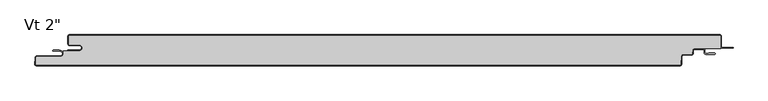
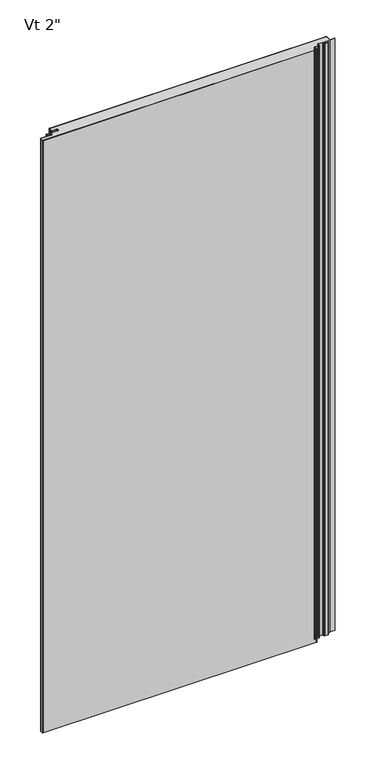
"""IFC4 building model written with IfcOpenShell, lengths in millimetres: plate geometry."""

from ifc_helpers import new_model, si_unit, point, frame, frame_2d, origin, origin_with_axes, place, context, project, spatial, polyline, circle_curve, ellipse_curve, trimmed, segment, composite_curve, outline, extrude, source, transform, mapped, element, save
from ifc_brep_helpers import plane_surface, cylinder_surface, revolved_surface, extruded_surface, advanced_brep


def plate_f2bdf8cb(model_context):
    return source(origin(), model_context, "Body", "SolidModel", [
        extrude(outline(composite_curve([segment(trimmed(circle_curve(frame_2d((488.3683456, -25.4)), 2.5875), [point((488.3683456, -22.8125))], [point((485.7843916, -25.2645807))], True, "CARTESIAN"), True, "CONTINUOUS"), segment(polyline([(485.7843916, -25.2645807), (485.4823154, -31.028539)]), True, "CONTINUOUS"), segment(trimmed(circle_curve(frame_2d((484.1029583, -30.95625)), 1.38125), [point((485.4823154, -31.028539))], [point((484.1029583, -32.3375))], False, "CARTESIAN"), True, "CONTINUOUS"), segment(polyline([(484.1029583, -32.3375), (469.9323845, -32.3375)]), True, "CONTINUOUS"), segment(trimmed(circle_curve(frame_2d((469.9323845, -34.925)), 2.5875), [point((469.9323845, -32.3375))], [point((467.3484306, -34.7895807))], True, "CARTESIAN"), True, "CONTINUOUS"), segment(polyline([(467.3484306, -34.7895807), (466.6303676, -48.491039)]), True, "CONTINUOUS"), segment(trimmed(circle_curve(frame_2d((465.2510105, -48.41875)), 1.38125), [point((466.6303676, -48.491039))], [point((465.2510105, -49.8))], False, "CARTESIAN"), True, "CONTINUOUS"), segment(polyline([(465.2510105, -49.8), (-584.0656862, -49.8)]), True, "CONTINUOUS"), segment(trimmed(circle_curve(frame_2d((-584.0656862, -48.41875)), 1.38125), [point((-584.0656862, -49.8))], [point((-585.4450433, -48.346461))], False, "CARTESIAN"), True, "CONTINUOUS"), segment(polyline([(-585.4450433, -48.346461), (-584.8626618, -37.233961)]), True, "CONTINUOUS"), segment(trimmed(circle_curve(frame_2d((-583.4833048, -37.30625)), 1.38125), [point((-584.8626618, -37.233961))], [point((-583.4833048, -35.925))], False, "CARTESIAN"), True, "CONTINUOUS"), segment(polyline([(-583.4833048, -35.925), (-545.3000002, -35.925)]), True, "CONTINUOUS"), segment(trimmed(circle_curve(frame_2d((-545.3000002, -30.95625)), 4.96875), [point((-545.3000002, -35.925))], [point((-540.3312502, -30.95625))], True, "CARTESIAN"), True, "CONTINUOUS"), segment(polyline([(-540.3312502, -30.95625), (-540.3312502, -26.4), (-514.3437502, -26.4)]), True, "CONTINUOUS"), segment(trimmed(circle_curve(frame_2d((-514.3437502, -21.43125)), 4.96875), [point((-514.3437502, -26.4))], [point((-514.3437502, -16.4625))], True, "CARTESIAN"), True, "CONTINUOUS"), segment(polyline([(-514.3437502, -16.4625), (-530.2187502, -16.4625)]), True, "CONTINUOUS"), segment(trimmed(circle_curve(frame_2d((-530.2187502, -15.08125)), 1.38125), [point((-530.2187502, -16.4625))], [point((-531.6000002, -15.08125))], False, "CARTESIAN"), True, "CONTINUOUS"), segment(polyline([(-531.6000002, -15.08125), (-531.6000002, -2.38125)]), True, "CONTINUOUS"), segment(trimmed(circle_curve(frame_2d((-530.2187502, -2.38125)), 1.38125), [point((-531.6000002, -2.38125))], [point((-530.2187502, -1.0))], False, "CARTESIAN"), True, "CONTINUOUS"), segment(polyline([(-530.2187502, -1.0), (530.2312498, -1.0)]), True, "CONTINUOUS"), segment(trimmed(circle_curve(frame_2d((530.2312498, -2.38125)), 1.38125), [point((530.2312498, -1.0))], [point((531.6124998, -2.38125))], False, "CARTESIAN"), True, "CONTINUOUS"), segment(polyline([(531.6124998, -2.38125), (531.6124998, -22.8125), (488.3683456, -22.8125)]), True, "CONTINUOUS")], self_intersect=False)), origin_with_axes(), (0.0, 0.0, 1.0), 2400.0),
        extrude(outline(composite_curve([segment(polyline([(-532.6000002, -25.4), (-514.3437502, -25.4)]), True, "CONTINUOUS"), segment(trimmed(circle_curve(frame_2d((-514.3437502, -21.43125)), 3.96875), [point((-514.3437502, -25.4))], [point((-514.3437502, -17.4625))], True, "CARTESIAN"), True, "CONTINUOUS"), segment(polyline([(-514.3437502, -17.4625), (-530.2187502, -17.4625)]), True, "CONTINUOUS"), segment(trimmed(circle_curve(frame_2d((-530.2187502, -15.08125)), 2.38125), [point((-530.2187502, -17.4625))], [point((-532.6000002, -15.08125))], False, "CARTESIAN"), True, "CONTINUOUS"), segment(polyline([(-532.6000002, -15.08125), (-532.6000002, -2.38125)]), True, "CONTINUOUS"), segment(trimmed(circle_curve(frame_2d((-530.2187502, -2.38125)), 2.38125), [point((-532.6000002, -2.38125))], [point((-530.2187502, 0.0))], False, "CARTESIAN"), True, "CONTINUOUS"), segment(polyline([(-530.2187502, 0.0), (530.2312498, 0.0)]), True, "CONTINUOUS"), segment(trimmed(circle_curve(frame_2d((530.2312498, -2.38125)), 2.38125), [point((530.2312498, 0.0))], [point((532.6124998, -2.38125))], False, "CARTESIAN"), True, "CONTINUOUS"), segment(polyline([(532.6124998, -2.38125), (532.6124998, -19.446875)]), True, "CONTINUOUS"), segment(trimmed(circle_curve(frame_2d((534.1999998, -19.446875)), 1.5875), [point((532.6124998, -19.446875))], [point((534.1999998, -21.034375))], True, "CARTESIAN"), True, "CONTINUOUS"), segment(polyline([(534.1999998, -21.034375), (551.6624998, -21.034375), (551.6624998, -22.034375), (534.1999998, -22.034375)]), True, "CONTINUOUS"), segment(trimmed(circle_curve(frame_2d((534.1999998, -19.446875)), 2.5875), [point((534.1999998, -22.034375))], [point((531.6124998, -19.446875))], False, "CARTESIAN"), True, "CONTINUOUS"), segment(polyline([(531.6124998, -19.446875), (531.6124998, -2.38125)]), True, "CONTINUOUS"), segment(trimmed(circle_curve(frame_2d((530.2312498, -2.38125)), 1.38125), [point((531.6124998, -2.38125))], [point((530.2312498, -1.0))], True, "CARTESIAN"), True, "CONTINUOUS"), segment(polyline([(530.2312498, -1.0), (-530.2187502, -1.0)]), True, "CONTINUOUS"), segment(trimmed(circle_curve(frame_2d((-530.2187502, -2.38125)), 1.38125), [point((-530.2187502, -1.0))], [point((-531.6000002, -2.38125))], True, "CARTESIAN"), True, "CONTINUOUS"), segment(polyline([(-531.6000002, -2.38125), (-531.6000002, -15.08125)]), True, "CONTINUOUS"), segment(trimmed(circle_curve(frame_2d((-530.2187502, -15.08125)), 1.38125), [point((-531.6000002, -15.08125))], [point((-530.2187502, -16.4625))], True, "CARTESIAN"), True, "CONTINUOUS"), segment(polyline([(-530.2187502, -16.4625), (-514.3437502, -16.4625)]), True, "CONTINUOUS"), segment(trimmed(circle_curve(frame_2d((-514.3437502, -21.43125)), 4.96875), [point((-514.3437502, -16.4625))], [point((-514.3437502, -26.4))], False, "CARTESIAN"), True, "CONTINUOUS"), segment(polyline([(-514.3437502, -26.4), (-532.6000002, -26.4), (-532.6000002, -25.4)]), True, "CONTINUOUS")], self_intersect=False)), origin_with_axes(), (0.0, 0.0, 1.0), 2400.0),
        advanced_brep(
        [(-556.6252051, -25.4, 2400.0), (-556.6252051, -26.9875, 2400.0), (-545.3142676, -26.9875, 2400.0), (-545.3142676, -34.925, 2400.0), (-583.4975722, -34.925, 2400.0), (-585.8755588, -37.181625, 2400.0), (-586.4579402, -48.294125, 2400.0), (-584.0799537, -50.8, 2400.0), (465.2510105, -50.8, 2400.0), (467.6289971, -48.543375, 2400.0), (468.3470601, -34.8419167, 2400.0), (469.9323845, -33.3375, 2400.0), (484.0886909, -33.3375, 2400.0), (486.4666775, -31.080875, 2400.0), (486.7687537, -25.3169167, 2400.0), (488.3540781, -23.8125, 2400.0), (503.2294824, -23.8125, 2400.0), (504.8169824, -25.4, 2400.0), (504.8169824, -29.5671875, 2400.0), (507.1982324, -31.9484375, 2400.0), (521.689853, -31.9484375, 2400.0), (521.689853, -30.1546875, 2400.0), (511.9607324, -30.1546875, 2400.0), (511.9607324, -30.9484375, 2400.0), (507.1982324, -30.9484375, 2400.0), (505.8169824, -29.5671875, 2400.0), (505.8169824, -25.4, 2400.0), (503.2294824, -22.8125, 2400.0), (488.3540781, -22.8125, 2400.0), (485.7701242, -25.2645807, 2400.0), (485.4680479, -31.028539, 2400.0), (484.0886909, -32.3375, 2400.0), (469.9323845, -32.3375, 2400.0), (467.3484306, -34.7895807, 2400.0), (466.6303676, -48.491039, 2400.0), (465.2510105, -49.8, 2400.0), (-584.0799537, -49.8, 2400.0), (-585.4593107, -48.346461, 2400.0), (-584.8769293, -37.233961, 2400.0), (-583.4975722, -35.925, 2400.0), (-545.3142676, -35.925, 2400.0), (-545.3142676, -25.9875, 2400.0), (-546.9017676, -26.19375, 2400.0), (-546.9017676, -25.4, 2400.0), (-556.6252051, -25.4, 0.0), (-546.9017676, -25.4, 0.0), (-546.9017676, -26.19375, 0.0), (-545.3142676, -25.9875, 0.0), (-545.3142676, -35.925, 0.0), (-583.4975722, -35.925, 0.0), (-584.8769293, -37.233961, 0.0), (-585.4593107, -48.346461, 0.0), (-584.0799537, -49.8, 0.0), (465.2510105, -49.8, 0.0), (466.6303676, -48.491039, 0.0), (467.3484306, -34.7895807, 0.0), (469.9323845, -32.3375, 0.0), (484.0886909, -32.3375, 0.0), (485.4680479, -31.028539, 0.0), (485.7701242, -25.2645807, 0.0), (488.3540781, -22.8125, 0.0), (503.2294824, -22.8125, 0.0), (505.8169824, -25.4, 0.0), (505.8169824, -29.5671875, 0.0), (507.1982324, -30.9484375, 0.0), (511.9607324, -30.9484375, 0.0), (511.9607324, -30.1546875, 0.0), (521.689853, -30.1546875, 0.0), (521.689853, -31.9484375, 0.0), (507.1982324, -31.9484375, 0.0), (504.8169824, -29.5671875, 0.0), (504.8169824, -25.4, 0.0), (503.2294824, -23.8125, 0.0), (488.3540781, -23.8125, 0.0), (486.7687537, -25.3169167, 0.0), (486.4666775, -31.080875, 0.0), (484.0886909, -33.3375, 0.0), (469.9323845, -33.3375, 0.0), (468.3470601, -34.8419167, 0.0), (467.6289971, -48.543375, 0.0), (465.2510105, -50.8, 0.0), (-584.0799537, -50.8, 0.0), (-586.4579402, -48.294125, 0.0), (-585.8755588, -37.181625, 0.0), (-583.4975722, -34.925, 0.0), (-545.3142676, -34.925, 0.0), (-545.3142676, -26.9875, 0.0), (-556.6252051, -26.9875, 0.0)],
        [
            (0, 1, circle_curve(frame((-556.6252051, -26.19375, 2400.0), z_axis=(0.0, 0.0, 1.0), x_axis=(-1.0, 0.0, 0.0)), 0.79375)),
            (1, 2),
            (2, 3, circle_curve(frame((-545.3142676, -30.95625, 2400.0), z_axis=(0.0, 0.0, -1.0), x_axis=(-1.0, 0.0, 0.0)), 3.96875)),
            (3, 4),
            (4, 5, circle_curve(frame((-583.4975722, -37.30625, 2400.0), z_axis=(0.0, 0.0, 1.0), x_axis=(-1.0, 0.0, 0.0)), 2.38125)),
            (5, 6),
            (6, 7, circle_curve(frame((-584.0799537, -48.41875, 2400.0), z_axis=(0.0, 0.0, 1.0), x_axis=(-1.0, 0.0, 0.0)), 2.38125)),
            (7, 8),
            (8, 9, circle_curve(frame((465.2510105, -48.41875, 2400.0), z_axis=(0.0, 0.0, 1.0), x_axis=(-1.0, 0.0, 0.0)), 2.38125)),
            (9, 10),
            (10, 11, circle_curve(frame((469.9323845, -34.925, 2400.0), z_axis=(0.0, 0.0, -1.0), x_axis=(-1.0, 0.0, 0.0)), 1.5875)),
            (11, 12),
            (12, 13, circle_curve(frame((484.0886909, -30.95625, 2400.0), z_axis=(0.0, 0.0, 1.0), x_axis=(-1.0, 0.0, 0.0)), 2.38125)),
            (13, 14),
            (14, 15, circle_curve(frame((488.3540781, -25.4, 2400.0), z_axis=(0.0, 0.0, -1.0), x_axis=(-1.0, 0.0, 0.0)), 1.5875)),
            (15, 16),
            (16, 17, circle_curve(frame((503.2294824, -25.4, 2400.0), z_axis=(0.0, 0.0, -1.0), x_axis=(-1.0, 0.0, 0.0)), 1.5875)),
            (17, 18),
            (18, 19, circle_curve(frame((507.1982324, -29.5671875, 2400.0), z_axis=(0.0, 0.0, 1.0), x_axis=(-1.0, 0.0, 0.0)), 2.38125)),
            (19, 20),
            (20, 21, ellipse_curve(frame((521.689853, -31.0515625, 2400.0), z_axis=(0.0, 0.0, 1.0), x_axis=(0.0, 1.0, 0.0)), 0.896875, 0.7852275)),
            (21, 22),
            (22, 23),
            (23, 24),
            (24, 25, circle_curve(frame((507.1982324, -29.5671875, 2400.0), z_axis=(0.0, 0.0, -1.0), x_axis=(-1.0, 0.0, 0.0)), 1.38125)),
            (25, 26),
            (26, 27, circle_curve(frame((503.2294824, -25.4, 2400.0), z_axis=(0.0, 0.0, 1.0), x_axis=(-1.0, 0.0, 0.0)), 2.5875)),
            (27, 28),
            (28, 29, circle_curve(frame((488.3540781, -25.4, 2400.0), z_axis=(0.0, 0.0, 1.0), x_axis=(-1.0, 0.0, 0.0)), 2.5875)),
            (29, 30),
            (30, 31, circle_curve(frame((484.0886909, -30.95625, 2400.0), z_axis=(0.0, 0.0, -1.0), x_axis=(-1.0, 0.0, 0.0)), 1.38125)),
            (31, 32),
            (32, 33, circle_curve(frame((469.9323845, -34.925, 2400.0), z_axis=(0.0, 0.0, 1.0), x_axis=(-1.0, 0.0, 0.0)), 2.5875)),
            (33, 34),
            (34, 35, circle_curve(frame((465.2510105, -48.41875, 2400.0), z_axis=(0.0, 0.0, -1.0), x_axis=(-1.0, 0.0, 0.0)), 1.38125)),
            (35, 36),
            (36, 37, circle_curve(frame((-584.0799537, -48.41875, 2400.0), z_axis=(0.0, 0.0, -1.0), x_axis=(-1.0, 0.0, 0.0)), 1.38125)),
            (37, 38),
            (38, 39, circle_curve(frame((-583.4975722, -37.30625, 2400.0), z_axis=(0.0, 0.0, -1.0), x_axis=(-1.0, 0.0, 0.0)), 1.38125)),
            (39, 40),
            (40, 41, circle_curve(frame((-545.3142676, -30.95625, 2400.0), z_axis=(0.0, 0.0, 1.0), x_axis=(-1.0, 0.0, 0.0)), 4.96875)),
            (41, 42),
            (42, 43),
            (43, 0),
            (44, 45),
            (45, 46),
            (46, 47),
            (47, 48, circle_curve(frame((-545.3142676, -30.95625, 0.0), z_axis=(0.0, 0.0, -1.0), x_axis=(-1.0, 0.0, 0.0)), 4.96875)),
            (48, 49),
            (49, 50, circle_curve(frame((-583.4975722, -37.30625, 0.0), z_axis=(0.0, 0.0, 1.0), x_axis=(-1.0, 0.0, 0.0)), 1.38125)),
            (50, 51),
            (51, 52, circle_curve(frame((-584.0799537, -48.41875, 0.0), z_axis=(0.0, 0.0, 1.0), x_axis=(-1.0, 0.0, 0.0)), 1.38125)),
            (52, 53),
            (53, 54, circle_curve(frame((465.2510105, -48.41875, 0.0), z_axis=(0.0, 0.0, 1.0), x_axis=(-1.0, 0.0, 0.0)), 1.38125)),
            (54, 55),
            (55, 56, circle_curve(frame((469.9323845, -34.925, 0.0), z_axis=(0.0, 0.0, -1.0), x_axis=(-1.0, 0.0, 0.0)), 2.5875)),
            (56, 57),
            (57, 58, circle_curve(frame((484.0886909, -30.95625, 0.0), z_axis=(0.0, 0.0, 1.0), x_axis=(-1.0, 0.0, 0.0)), 1.38125)),
            (58, 59),
            (59, 60, circle_curve(frame((488.3540781, -25.4, 0.0), z_axis=(0.0, 0.0, -1.0), x_axis=(-1.0, 0.0, 0.0)), 2.5875)),
            (60, 61),
            (61, 62, circle_curve(frame((503.2294824, -25.4, 0.0), z_axis=(0.0, 0.0, -1.0), x_axis=(-1.0, 0.0, 0.0)), 2.5875)),
            (62, 63),
            (63, 64, circle_curve(frame((507.1982324, -29.5671875, 0.0), z_axis=(0.0, 0.0, 1.0), x_axis=(-1.0, 0.0, 0.0)), 1.38125)),
            (64, 65),
            (65, 66),
            (66, 67),
            (67, 68, ellipse_curve(frame((521.689853, -31.0515625, 0.0), z_axis=(0.0, 0.0, -1.0), x_axis=(0.0, 1.0, 0.0)), 0.896875, 0.7852275)),
            (68, 69),
            (69, 70, circle_curve(frame((507.1982324, -29.5671875, 0.0), z_axis=(0.0, 0.0, -1.0), x_axis=(-1.0, 0.0, 0.0)), 2.38125)),
            (70, 71),
            (71, 72, circle_curve(frame((503.2294824, -25.4, 0.0), z_axis=(0.0, 0.0, 1.0), x_axis=(-1.0, 0.0, 0.0)), 1.5875)),
            (72, 73),
            (73, 74, circle_curve(frame((488.3540781, -25.4, 0.0), z_axis=(0.0, 0.0, 1.0), x_axis=(-1.0, 0.0, 0.0)), 1.5875)),
            (74, 75),
            (75, 76, circle_curve(frame((484.0886909, -30.95625, 0.0), z_axis=(0.0, 0.0, -1.0), x_axis=(-1.0, 0.0, 0.0)), 2.38125)),
            (76, 77),
            (77, 78, circle_curve(frame((469.9323845, -34.925, 0.0), z_axis=(0.0, 0.0, 1.0), x_axis=(-1.0, 0.0, 0.0)), 1.5875)),
            (78, 79),
            (79, 80, circle_curve(frame((465.2510105, -48.41875, 0.0), z_axis=(0.0, 0.0, -1.0), x_axis=(-1.0, 0.0, 0.0)), 2.38125)),
            (80, 81),
            (81, 82, circle_curve(frame((-584.0799537, -48.41875, 0.0), z_axis=(0.0, 0.0, -1.0), x_axis=(-1.0, 0.0, 0.0)), 2.38125)),
            (82, 83),
            (83, 84, circle_curve(frame((-583.4975722, -37.30625, 0.0), z_axis=(0.0, 0.0, -1.0), x_axis=(-1.0, 0.0, 0.0)), 2.38125)),
            (84, 85),
            (85, 86, circle_curve(frame((-545.3142676, -30.95625, 0.0), z_axis=(0.0, 0.0, 1.0), x_axis=(-1.0, 0.0, 0.0)), 3.96875)),
            (86, 87),
            (87, 44, circle_curve(frame((-556.6252051, -26.19375, 0.0), z_axis=(0.0, 0.0, -1.0), x_axis=(-1.0, 0.0, 0.0)), 0.79375)),
            (43, 45),
            (44, 0),
            (87, 1),
            (86, 2),
            (85, 3),
            (84, 4),
            (83, 5),
            (82, 6),
            (81, 7),
            (80, 8),
            (79, 9),
            (78, 10),
            (77, 11),
            (76, 12),
            (75, 13),
            (74, 14),
            (73, 15),
            (38, 50),
            (49, 39),
            (37, 51),
            (36, 52),
            (35, 53),
            (34, 54),
            (33, 55),
            (32, 56),
            (31, 57),
            (30, 58),
            (29, 59),
            (28, 60),
            (23, 65),
            (64, 24),
            (63, 25),
            (62, 26),
            (72, 16),
            (71, 17),
            (70, 18),
            (69, 19),
            (68, 20),
            (27, 61),
            (48, 40),
            (47, 41),
            (42, 46),
            (22, 66),
            (21, 67),
        ],
        [
            plane_surface(frame((0.0062498, -50.8, 2400.0), z_axis=(0.0, 0.0, 1.0), x_axis=(0.0, -1.0, 0.0))),
            plane_surface(frame((0.0062498, -50.8, 0.0), z_axis=(0.0, 0.0, -1.0), x_axis=(0.0, -1.0, 0.0))),
            plane_surface(frame((-556.6252051, -25.4, 2400.0), z_axis=(0.0, 1.0, 0.0), x_axis=(0.0, 0.0, -1.0))),
            cylinder_surface(frame((-556.6252051, -26.19375, 2400.0), z_axis=(0.0, 0.0, 1.0), x_axis=(-1.0, 0.0, 0.0)), 0.79375),
            plane_surface(frame((-545.3142676, -26.9875, 2400.0), z_axis=(0.0, -1.0, 0.0), x_axis=(0.0, 0.0, -1.0))),
            revolved_surface(polyline([(-549.2830176, -30.95625, 0.0), (-549.2830176, -30.95625, 2400.0)]), (-545.3142676, -30.95625, 2400.0), (0.0, 0.0, -1.0)),
            plane_surface(frame((-583.4975722, -34.925, 2400.0), z_axis=(0.0, 1.0, 0.0), x_axis=(0.0, 0.0, -1.0))),
            cylinder_surface(frame((-583.4975722, -37.30625, 2400.0), z_axis=(0.0, 0.0, 1.0), x_axis=(-1.0, 0.0, 0.0)), 2.38125),
            plane_surface(frame((-586.4579402, -48.294125, 2400.0), z_axis=(-0.9986295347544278, 0.052335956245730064, 0.0), x_axis=(0.0, 0.0, -1.0))),
            cylinder_surface(frame((-584.0799537, -48.41875, 2400.0), z_axis=(0.0, 0.0, 1.0), x_axis=(-1.0, 0.0, 0.0)), 2.38125),
            plane_surface(frame((465.2510105, -50.8, 2400.0), z_axis=(0.0, -1.0, 0.0), x_axis=(0.0, 0.0, -1.0))),
            cylinder_surface(frame((465.2510105, -48.41875, 2400.0), z_axis=(0.0, 0.0, 1.0), x_axis=(-1.0, 0.0, 0.0)), 2.38125),
            plane_surface(frame((468.3470601, -34.8419167, 2400.0), z_axis=(0.9986295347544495, -0.05233595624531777, 0.0), x_axis=(0.0, 0.0, -1.0))),
            revolved_surface(polyline([(468.34488450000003, -34.925, 0.0), (468.34488450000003, -34.925, 2400.0)]), (469.9323845, -34.925, 2400.0), (0.0, 0.0, -1.0)),
            plane_surface(frame((484.0886909, -33.3375, 2400.0), z_axis=(0.0, -1.0, 0.0), x_axis=(0.0, 0.0, -1.0))),
            cylinder_surface(frame((484.0886909, -30.95625, 2400.0), z_axis=(0.0, 0.0, 1.0), x_axis=(-1.0, 0.0, 0.0)), 2.38125),
            plane_surface(frame((486.7687537, -25.3169167, 2400.0), z_axis=(0.9986295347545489, -0.05233595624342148, 0.0), x_axis=(0.0, 0.0, -1.0))),
            revolved_surface(polyline([(486.7665781, -25.4, 0.0), (486.7665781, -25.4, 2400.0)]), (488.3540781, -25.4, 2400.0), (0.0, 0.0, -1.0)),
            revolved_surface(polyline([(-584.8788222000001, -37.30625, 0.0), (-584.8788222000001, -37.30625, 2400.0)]), (-583.4975722, -37.30625, 2400.0), (0.0, 0.0, -1.0)),
            plane_surface(frame((-584.8769293, -37.233961, 2400.0), z_axis=(0.9986295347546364, -0.05233595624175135, 0.0), x_axis=(0.0, 0.0, -1.0))),
            revolved_surface(polyline([(-585.4612037, -48.41875, 0.0), (-585.4612037, -48.41875, 2400.0)]), (-584.0799537, -48.41875, 2400.0), (0.0, 0.0, -1.0)),
            plane_surface(frame((-584.0799537, -49.8, 2400.0), z_axis=(0.0, 1.0, 0.0), x_axis=(0.0, 0.0, -1.0))),
            revolved_surface(polyline([(463.8697605, -48.41875, 0.0), (463.8697605, -48.41875, 2400.0)]), (465.2510105, -48.41875, 2400.0), (0.0, 0.0, -1.0)),
            plane_surface(frame((466.6303676, -48.491039, 2400.0), z_axis=(-0.9986295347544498, 0.05233595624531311, 0.0), x_axis=(0.0, 0.0, -1.0))),
            cylinder_surface(frame((469.9323845, -34.925, 2400.0), z_axis=(0.0, 0.0, 1.0), x_axis=(-1.0, 0.0, 0.0)), 2.5875),
            plane_surface(frame((469.9323845, -32.3375, 2400.0), z_axis=(0.0, 1.0, 0.0), x_axis=(0.0, 0.0, -1.0))),
            revolved_surface(polyline([(482.7074409, -30.95625, 0.0), (482.7074409, -30.95625, 2400.0)]), (484.0886909, -30.95625, 2400.0), (0.0, 0.0, -1.0)),
            plane_surface(frame((485.4680479, -31.028539, 2400.0), z_axis=(-0.9986295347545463, 0.05233595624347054, 0.0), x_axis=(0.0, 0.0, -1.0))),
            cylinder_surface(frame((488.3540781, -25.4, 2400.0), z_axis=(0.0, 0.0, 1.0), x_axis=(-1.0, 0.0, 0.0)), 2.5875),
            plane_surface(frame((507.1982324, -30.9484375, 2400.0), z_axis=(0.0, 1.0, 0.0), x_axis=(0.0, 0.0, -1.0))),
            revolved_surface(polyline([(505.8169824, -29.5671875, 0.0), (505.8169824, -29.5671875, 2400.0)]), (507.1982324, -29.5671875, 2400.0), (0.0, 0.0, -1.0)),
            plane_surface(frame((505.8169824, -25.4, 2400.0), z_axis=(1.0, 0.0, 0.0), x_axis=(0.0, 0.0, -1.0))),
            plane_surface(frame((503.2294824, -23.8125, 2400.0), z_axis=(0.0, -1.0, 0.0), x_axis=(0.0, 0.0, -1.0))),
            revolved_surface(polyline([(501.6419824, -25.4, 0.0), (501.6419824, -25.4, 2400.0)]), (503.2294824, -25.4, 2400.0), (0.0, 0.0, -1.0)),
            plane_surface(frame((504.8169824, -29.5671875, 2400.0), z_axis=(-1.0, 0.0, 0.0), x_axis=(0.0, 0.0, -1.0))),
            cylinder_surface(frame((507.1982324, -29.5671875, 2400.0), z_axis=(0.0, 0.0, 1.0), x_axis=(-1.0, 0.0, 0.0)), 2.38125),
            plane_surface(frame((521.689853, -31.9484375, 2400.0), z_axis=(0.0, -1.0, 0.0), x_axis=(0.0, 0.0, -1.0))),
            plane_surface(frame((488.3540781, -22.8125, 2400.0), z_axis=(0.0, 1.0, 0.0), x_axis=(0.0, 0.0, -1.0))),
            cylinder_surface(frame((503.2294824, -25.4, 2400.0), z_axis=(0.0, 0.0, 1.0), x_axis=(-1.0, 0.0, 0.0)), 2.5875),
            plane_surface(frame((-545.3142676, -35.925, 2400.0), z_axis=(0.0, -1.0, 0.0), x_axis=(0.0, 0.0, -1.0))),
            cylinder_surface(frame((-545.3142676, -30.95625, 2400.0), z_axis=(0.0, 0.0, 1.0), x_axis=(-1.0, 0.0, 0.0)), 4.96875),
            plane_surface(frame((-546.9017676, -25.4, 2400.0), z_axis=(1.0, 0.0, 0.0), x_axis=(0.0, 0.0, -1.0))),
            plane_surface(frame((-546.9017676, -26.19375, 2400.0), z_axis=(-0.128838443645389, 0.9916655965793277, 0.0), x_axis=(0.0, 0.0, -1.0))),
            plane_surface(frame((511.9607324, -30.9484375, 2400.0), z_axis=(-1.0, 0.0, 0.0), x_axis=(0.0, 0.0, -1.0))),
            plane_surface(frame((511.9607324, -30.1546875, 2400.0), z_axis=(0.0, 1.0, 0.0), x_axis=(0.0, 0.0, -1.0))),
            extruded_surface(trimmed(ellipse_curve(frame((521.689853, -31.0515625, 2400.0), z_axis=(0.0, 0.0, -1.0), x_axis=(0.0, 1.0, 0.0)), 0.896875, 0.7852275), [point((521.689853, -30.1546875, 2400.0))], [point((521.689853, -31.9484375, 2400.0))], True, "CARTESIAN"), (0.0, 0.0, -2400.0), 2400.0),
        ],
        [
            (0, [[1, 2, 3, 4, 5, 6, 7, 8, 9, 10, 11, 12, 13, 14, 15, 16, 17, 18, 19, 20, 21, 22, 23, 24, 25, 26, 27, 28, 29, 30, 31, 32, 33, 34, 35, 36, 37, 38, 39, 40, 41, 42, 43, 44]]),
            (1, [[45, 46, 47, 48, 49, 50, 51, 52, 53, 54, 55, 56, 57, 58, 59, 60, 61, 62, 63, 64, 65, 66, 67, 68, 69, 70, 71, 72, 73, 74, 75, 76, 77, 78, 79, 80, 81, 82, 83, 84, 85, 86, 87, 88]]),
            (2, [[89, -45, 90, -44]]),
            (3, [[-90, -88, 91, -1]]),
            (4, [[-91, -87, 92, -2]]),
            (5, [[-92, -86, 93, -3]]),
            (6, [[-93, -85, 94, -4]]),
            (7, [[-94, -84, 95, -5]]),
            (8, [[-95, -83, 96, -6]]),
            (9, [[-96, -82, 97, -7]]),
            (10, [[-97, -81, 98, -8]]),
            (11, [[-98, -80, 99, -9]]),
            (12, [[-99, -79, 100, -10]]),
            (13, [[-100, -78, 101, -11]]),
            (14, [[-101, -77, 102, -12]]),
            (15, [[-102, -76, 103, -13]]),
            (16, [[-103, -75, 104, -14]]),
            (17, [[-104, -74, 105, -15]]),
            (18, [[106, -50, 107, -39]]),
            (19, [[108, -51, -106, -38]]),
            (20, [[109, -52, -108, -37]]),
            (21, [[110, -53, -109, -36]]),
            (22, [[111, -54, -110, -35]]),
            (23, [[112, -55, -111, -34]]),
            (24, [[113, -56, -112, -33]]),
            (25, [[114, -57, -113, -32]]),
            (26, [[115, -58, -114, -31]]),
            (27, [[116, -59, -115, -30]]),
            (28, [[117, -60, -116, -29]]),
            (29, [[118, -65, 119, -24]]),
            (30, [[-119, -64, 120, -25]]),
            (31, [[-120, -63, 121, -26]]),
            (32, [[-105, -73, 122, -16]]),
            (33, [[-122, -72, 123, -17]]),
            (34, [[-123, -71, 124, -18]]),
            (35, [[-124, -70, 125, -19]]),
            (36, [[-125, -69, 126, -20]]),
            (37, [[127, -61, -117, -28]]),
            (38, [[-121, -62, -127, -27]]),
            (39, [[-107, -49, 128, -40]]),
            (40, [[-128, -48, 129, -41]]),
            (41, [[130, -46, -89, -43]]),
            (42, [[-129, -47, -130, -42]]),
            (43, [[131, -66, -118, -23]]),
            (44, [[132, -67, -131, -22]]),
            (45, [[-126, -68, -132, -21]]),
        ],
    ),
    ])


if __name__ == "__main__":
    model = new_model("IFC4")
    model_context = context("Model", 3, world=origin())
    ifc_project = project(units=[si_unit("LENGTHUNIT", "METRE", prefix="MILLI")], contexts=[model_context])
    site = spatial("IfcSite", under=ifc_project)
    building = spatial("IfcBuilding", under=site)
    placement = place(None, origin())
    plate_shape = plate_f2bdf8cb(model_context)
    element("IfcPlate", 1, ObjectType="KIP-42-DWHR-R19-CP-Vt-F : Vt 2\"", at=placement, inside=building, context=model_context, shape_type="MappedRepresentation", body=[
        mapped(plate_shape, transform((0.0, 0.0, 0.0), x_axis=(1.0, 0.0, 0.0), y_axis=(0.0, 1.0, 0.0), z_axis=(0.0, 0.0, 1.0))),
    ])
    save(model, "model.ifc")
